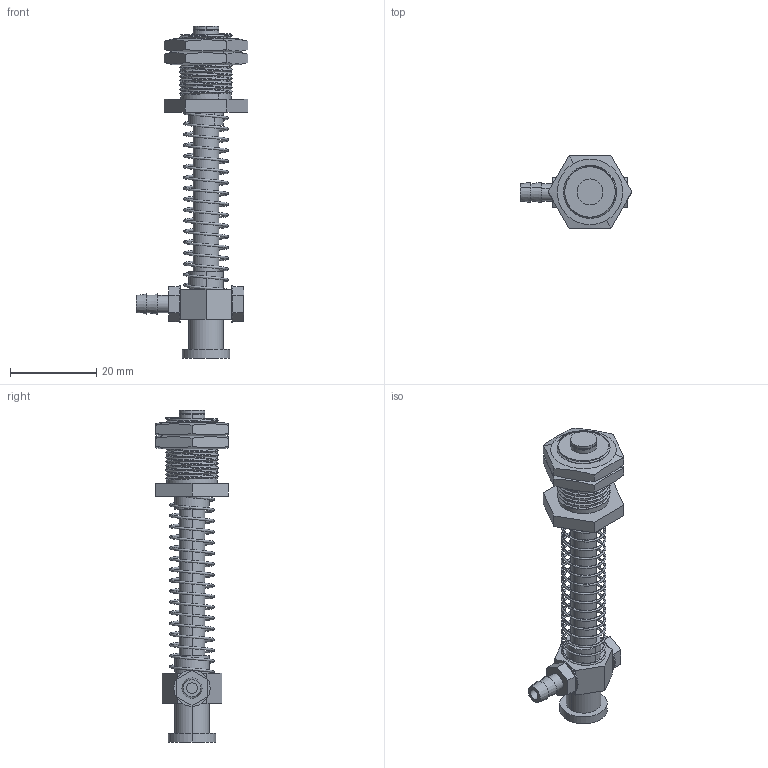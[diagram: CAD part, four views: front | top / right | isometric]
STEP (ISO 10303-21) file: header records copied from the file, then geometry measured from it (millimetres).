
FILE_DESCRIPTION (( 'STEP AP214' ), '1' );
FILE_NAME ('VFMT-30M12.STEP', '2019-11-16T01:45:33', ( '微软用户' ), ( '微软中国' ), 'SwSTEP 2.0', 'SolidWorks 2016', '' );
FILE_SCHEMA (( 'AUTOMOTIVE_DESIGN' ));
Length unit declared in the file: millimetre
Products named in the file (1): VFMT-30M12
Bounding box: 25.9 x 16.8 x 77 mm (x, y, z)
Volume: 6358.8 mm3; surface area: 6885.5 mm2
Topology: 10 solids, 10 shells, 198 faces, 485 edges, 317 vertices
Faces by surface type: cylinder 98, plane 77, cone 14, bspline 9
Entity records: 16668 total; most frequent: CARTESIAN_POINT 10021, ORIENTED_EDGE 966, DIRECTION 808, EDGE_CURVE 483, VERTEX_POINT 317, AXIS2_PLACEMENT_3D 296, EDGE_LOOP 226, LINE 216
